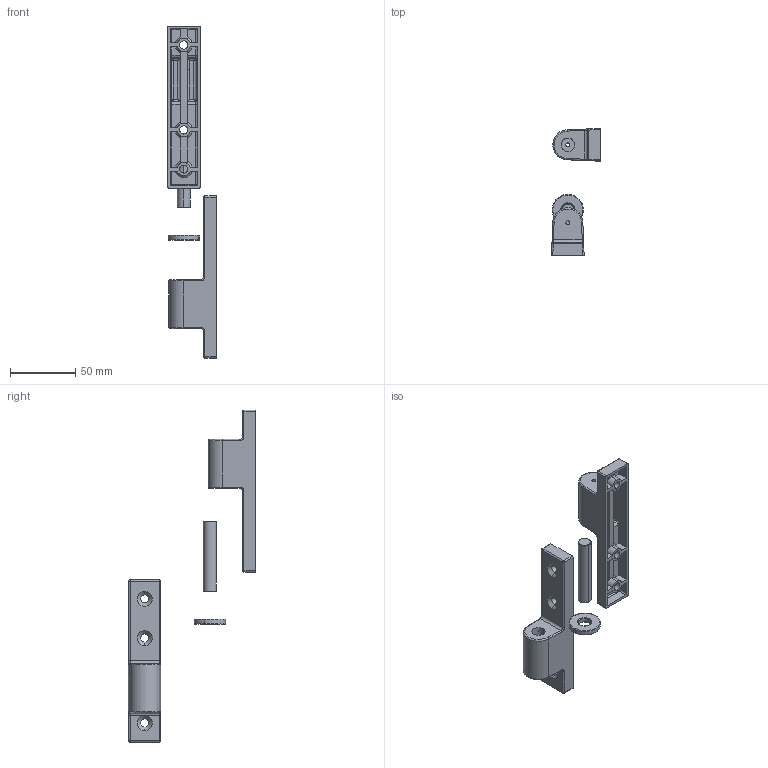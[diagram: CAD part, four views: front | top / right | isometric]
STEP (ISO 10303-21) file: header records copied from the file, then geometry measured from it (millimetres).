
FILE_DESCRIPTION (( 'STEP AP214' ), '1' );
FILE_NAME ('SK2-717.STEP', '2020-03-25T03:36:05', ( 'admin' ), ( 'Microsoft' ), 'SwSTEP 2.0', 'SolidWorks 2018', '' );
FILE_SCHEMA (( 'AUTOMOTIVE_DESIGN' ));
Length unit declared in the file: millimetre
Products named in the file (4): 2-717-F3; 2-717-F2; 2-717-F1; SK2-717
Assembly tree (4 placements, depth 2):
  SK2-717
    2-717-F1  x2
    2-717-F2
    2-717-F3
Bounding box: 37.5 x 97.5 x 254 mm (x, y, z)
Volume: 56833.4 mm3; surface area: 39151.7 mm2
Topology: 4 solids, 4 shells, 360 faces, 906 edges, 540 vertices
Faces by surface type: cylinder 144, plane 116, cone 38, bspline 32, sphere 16, torus 14
Entity records: 6106 total; most frequent: CARTESIAN_POINT 1580, DIRECTION 934, ORIENTED_EDGE 924, EDGE_CURVE 462, AXIS2_PLACEMENT_3D 356, VERTEX_POINT 282, VECTOR 222, LINE 222
